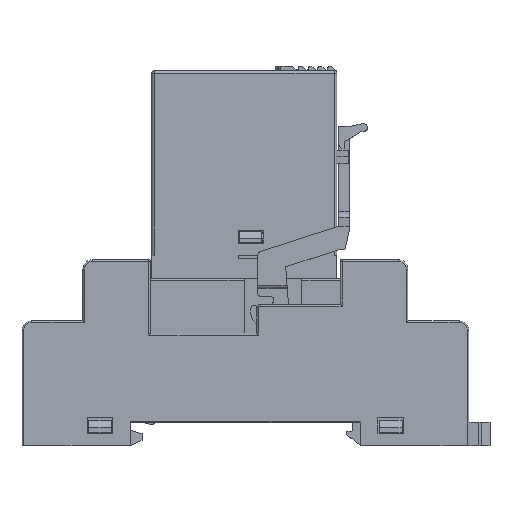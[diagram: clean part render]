
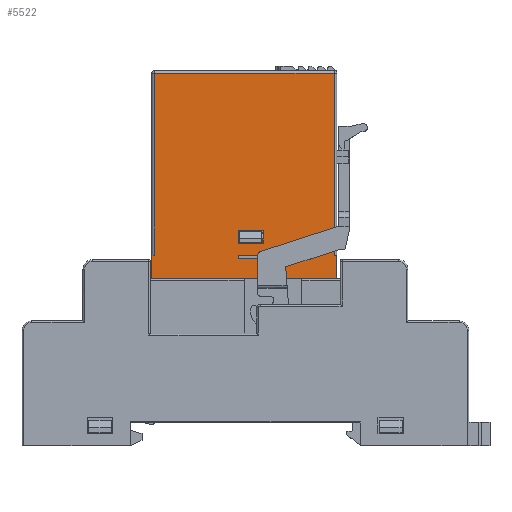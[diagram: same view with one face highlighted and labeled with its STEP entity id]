
A CAD part, top view. The second image highlights one B-rep face of the part: STEP entity #5522.
In plain terms, the highlighted planar face has unit normal (0, 0, 1).
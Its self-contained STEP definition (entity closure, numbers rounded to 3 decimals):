
#660 = VERTEX_POINT ( 'NONE', #59636 ) ;
#1149 = ORIENTED_EDGE ( 'NONE', *, *, #95142, .T. ) ;
#1178 = ORIENTED_EDGE ( 'NONE', *, *, #70466, .T. ) ;
#1721 = ORIENTED_EDGE ( 'NONE', *, *, #22325, .T. ) ;
#2064 = CARTESIAN_POINT ( 'NONE',  ( -13.6, 28.292, 6.3 ) ) ;
#2216 = VERTEX_POINT ( 'NONE', #18918 ) ;
#3144 = LINE ( 'NONE', #58376, #40420 ) ;
#3998 = VECTOR ( 'NONE', #49605, 1000. ) ;
#4948 = ORIENTED_EDGE ( 'NONE', *, *, #82903, .F. ) ;
#5128 = ORIENTED_EDGE ( 'NONE', *, *, #59732, .F. ) ;
#5522 = ADVANCED_FACE ( 'NONE', ( #71629, #32174, #88980 ), #88077, .F. ) ;
#5698 = ORIENTED_EDGE ( 'NONE', *, *, #84038, .T. ) ;
#5722 = ORIENTED_EDGE ( 'NONE', *, *, #82137, .T. ) ;
#7141 = ORIENTED_EDGE ( 'NONE', *, *, #20854, .T. ) ;
#7644 = VERTEX_POINT ( 'NONE', #42459 ) ;
#8259 = ORIENTED_EDGE ( 'NONE', *, *, #28903, .F. ) ;
#8658 = CARTESIAN_POINT ( 'NONE',  ( -0.575, 3.842, 6.3 ) ) ;
#8934 = LINE ( 'NONE', #41069, #70514 ) ;
#9820 = CARTESIAN_POINT ( 'NONE',  ( 14.8, -0.008, 6.3 ) ) ;
#10282 = CARTESIAN_POINT ( 'NONE',  ( -13.6, 28.292, 6.3 ) ) ;
#11057 = DIRECTION ( 'NONE',  ( 0., -1., 0. ) ) ;
#11660 = VERTEX_POINT ( 'NONE', #82272 ) ;
#12462 = LINE ( 'NONE', #51675, #49628 ) ;
#12819 = EDGE_CURVE ( 'NONE', #15055, #7644, #3144, .T. ) ;
#12913 = CARTESIAN_POINT ( 'NONE',  ( 14.1, -0.008, 6.3 ) ) ;
#13637 = DIRECTION ( 'NONE',  ( 0., -1., 0. ) ) ;
#13866 = VERTEX_POINT ( 'NONE', #89289 ) ;
#13966 = LINE ( 'NONE', #58598, #90509 ) ;
#14146 = DIRECTION ( 'NONE',  ( 0., 0., -1. ) ) ;
#14636 = DIRECTION ( 'NONE',  ( -1., 0., 0. ) ) ;
#15055 = VERTEX_POINT ( 'NONE', #46652 ) ;
#15725 = CARTESIAN_POINT ( 'NONE',  ( -0.55, -0.008, 6.3 ) ) ;
#16038 = DIRECTION ( 'NONE',  ( 0., 1., 0. ) ) ;
#16796 = VERTEX_POINT ( 'NONE', #74848 ) ;
#18153 = ORIENTED_EDGE ( 'NONE', *, *, #18557, .T. ) ;
#18460 = ORIENTED_EDGE ( 'NONE', *, *, #52860, .F. ) ;
#18557 = EDGE_CURVE ( 'NONE', #31711, #80776, #13966, .T. ) ;
#18918 = CARTESIAN_POINT ( 'NONE',  ( -0.575, 1.842, 6.3 ) ) ;
#19955 = LINE ( 'NONE', #93569, #79208 ) ;
#20854 = EDGE_CURVE ( 'NONE', #50770, #13866, #68976, .T. ) ;
#21106 = VECTOR ( 'NONE', #78696, 1000. ) ;
#21489 = VECTOR ( 'NONE', #11057, 1000. ) ;
#22325 = EDGE_CURVE ( 'NONE', #11660, #660, #80356, .T. ) ;
#22936 = ORIENTED_EDGE ( 'NONE', *, *, #29663, .T. ) ;
#23020 = ORIENTED_EDGE ( 'NONE', *, *, #38254, .T. ) ;
#24983 = LINE ( 'NONE', #10282, #81859 ) ;
#26030 = CARTESIAN_POINT ( 'NONE',  ( -0.5, 1.842, 6.3 ) ) ;
#27523 = LINE ( 'NONE', #88562, #84354 ) ;
#28074 = VECTOR ( 'NONE', #44036, 1000. ) ;
#28903 = EDGE_CURVE ( 'NONE', #69976, #2216, #64876, .T. ) ;
#29076 = DIRECTION ( 'NONE',  ( 0., 1., 0. ) ) ;
#29351 = CARTESIAN_POINT ( 'NONE',  ( 3.3, -0.508, 6.3 ) ) ;
#29663 = EDGE_CURVE ( 'NONE', #16796, #37513, #8934, .T. ) ;
#30792 = CARTESIAN_POINT ( 'NONE',  ( -0.575, 3.842, 6.3 ) ) ;
#31018 = LINE ( 'NONE', #65589, #50771 ) ;
#31711 = VERTEX_POINT ( 'NONE', #83251 ) ;
#32174 = FACE_BOUND ( 'NONE', #63996, .T. ) ;
#32362 = ORIENTED_EDGE ( 'NONE', *, *, #94884, .T. ) ;
#32989 = EDGE_LOOP ( 'NONE', ( #4948, #8259, #5128, #67355 ) ) ;
#33579 = EDGE_CURVE ( 'NONE', #37853, #50770, #47825, .T. ) ;
#34338 = LINE ( 'NONE', #82811, #73735 ) ;
#36141 = CARTESIAN_POINT ( 'NONE',  ( 14.8, -3.708, 6.3 ) ) ;
#36249 = CARTESIAN_POINT ( 'NONE',  ( -14., 9.792, 6.3 ) ) ;
#37513 = VERTEX_POINT ( 'NONE', #36141 ) ;
#37853 = VERTEX_POINT ( 'NONE', #54829 ) ;
#38254 = EDGE_CURVE ( 'NONE', #80776, #60362, #24983, .T. ) ;
#40420 = VECTOR ( 'NONE', #43463, 1000. ) ;
#41069 = CARTESIAN_POINT ( 'NONE',  ( -14., -3.708, 6.3 ) ) ;
#41738 = DIRECTION ( 'NONE',  ( 1., 0., 0. ) ) ;
#42459 = CARTESIAN_POINT ( 'NONE',  ( 3.325, 3.842, 6.3 ) ) ;
#43463 = DIRECTION ( 'NONE',  ( 0., 1., 0. ) ) ;
#44036 = DIRECTION ( 'NONE',  ( 0., -1., 0. ) ) ;
#44305 = DIRECTION ( 'NONE',  ( -1., 0., 0. ) ) ;
#45714 = DIRECTION ( 'NONE',  ( 0., -1., 0. ) ) ;
#46086 = CARTESIAN_POINT ( 'NONE',  ( 14.4, 28.292, 6.3 ) ) ;
#46652 = CARTESIAN_POINT ( 'NONE',  ( 3.325, 1.842, 6.3 ) ) ;
#47825 = LINE ( 'NONE', #58624, #28074 ) ;
#49271 = VECTOR ( 'NONE', #44305, 1000. ) ;
#49605 = DIRECTION ( 'NONE',  ( -1., 0., 0. ) ) ;
#49628 = VECTOR ( 'NONE', #59161, 1000. ) ;
#50370 = CARTESIAN_POINT ( 'NONE',  ( 3.3, -0.508, 6.3 ) ) ;
#50770 = VERTEX_POINT ( 'NONE', #50370 ) ;
#50771 = VECTOR ( 'NONE', #13637, 1000. ) ;
#51675 = CARTESIAN_POINT ( 'NONE',  ( -14., -3.708, 6.3 ) ) ;
#52860 = EDGE_CURVE ( 'NONE', #70451, #13866, #31018, .T. ) ;
#54829 = CARTESIAN_POINT ( 'NONE',  ( 3.3, -0.008, 6.3 ) ) ;
#55484 = CARTESIAN_POINT ( 'NONE',  ( -13.6, 23.492, 6.3 ) ) ;
#58376 = CARTESIAN_POINT ( 'NONE',  ( 3.325, 3.842, 6.3 ) ) ;
#58598 = CARTESIAN_POINT ( 'NONE',  ( 14.4, 23.492, 6.3 ) ) ;
#58624 = CARTESIAN_POINT ( 'NONE',  ( 3.3, 1.892, 6.3 ) ) ;
#59161 = DIRECTION ( 'NONE',  ( 0., -1., 0. ) ) ;
#59636 = CARTESIAN_POINT ( 'NONE',  ( -14., -0.008, 6.3 ) ) ;
#59732 = EDGE_CURVE ( 'NONE', #7644, #69976, #27523, .T. ) ;
#60362 = VERTEX_POINT ( 'NONE', #2064 ) ;
#60997 = LINE ( 'NONE', #55484, #21489 ) ;
#61998 = LINE ( 'NONE', #26030, #64332 ) ;
#62222 = DIRECTION ( 'NONE',  ( -1., 0., 0. ) ) ;
#62529 = VECTOR ( 'NONE', #45714, 1000. ) ;
#63996 = EDGE_LOOP ( 'NONE', ( #18460, #5698, #84532, #7141 ) ) ;
#64332 = VECTOR ( 'NONE', #85361, 1000. ) ;
#64876 = LINE ( 'NONE', #8658, #62529 ) ;
#65589 = CARTESIAN_POINT ( 'NONE',  ( -0.55, 1.892, 6.3 ) ) ;
#66103 = DIRECTION ( 'NONE',  ( 0., -1., 0. ) ) ;
#67355 = ORIENTED_EDGE ( 'NONE', *, *, #12819, .F. ) ;
#68976 = LINE ( 'NONE', #29351, #49271 ) ;
#69976 = VERTEX_POINT ( 'NONE', #30792 ) ;
#70451 = VERTEX_POINT ( 'NONE', #15725 ) ;
#70466 = EDGE_CURVE ( 'NONE', #37513, #87047, #34338, .T. ) ;
#70514 = VECTOR ( 'NONE', #85430, 1000. ) ;
#71240 = CARTESIAN_POINT ( 'NONE',  ( 14.1, -0.008, 6.3 ) ) ;
#71629 = FACE_OUTER_BOUND ( 'NONE', #76121, .T. ) ;
#73735 = VECTOR ( 'NONE', #16038, 1000. ) ;
#74848 = CARTESIAN_POINT ( 'NONE',  ( -14., -3.708, 6.3 ) ) ;
#76121 = EDGE_LOOP ( 'NONE', ( #1149, #1721, #32362, #22936, #1178, #5722, #18153, #23020 ) ) ;
#78696 = DIRECTION ( 'NONE',  ( -1., 0., 0. ) ) ;
#79208 = VECTOR ( 'NONE', #41738, 1000. ) ;
#80356 = LINE ( 'NONE', #71240, #21106 ) ;
#80776 = VERTEX_POINT ( 'NONE', #46086 ) ;
#81859 = VECTOR ( 'NONE', #62222, 1000. ) ;
#82137 = EDGE_CURVE ( 'NONE', #87047, #31711, #85290, .T. ) ;
#82272 = CARTESIAN_POINT ( 'NONE',  ( -13.6, -0.008, 6.3 ) ) ;
#82811 = CARTESIAN_POINT ( 'NONE',  ( 14.8, -3.708, 6.3 ) ) ;
#82903 = EDGE_CURVE ( 'NONE', #2216, #15055, #61998, .T. ) ;
#83251 = CARTESIAN_POINT ( 'NONE',  ( 14.4, -0.008, 6.3 ) ) ;
#84038 = EDGE_CURVE ( 'NONE', #70451, #37853, #19955, .T. ) ;
#84354 = VECTOR ( 'NONE', #14636, 1000. ) ;
#84532 = ORIENTED_EDGE ( 'NONE', *, *, #33579, .T. ) ;
#85290 = LINE ( 'NONE', #12913, #3998 ) ;
#85361 = DIRECTION ( 'NONE',  ( 1., 0., 0. ) ) ;
#85430 = DIRECTION ( 'NONE',  ( 1., 0., 0. ) ) ;
#87047 = VERTEX_POINT ( 'NONE', #9820 ) ;
#88077 = PLANE ( 'NONE',  #90814 ) ;
#88562 = CARTESIAN_POINT ( 'NONE',  ( -0.5, 3.842, 6.3 ) ) ;
#88980 = FACE_BOUND ( 'NONE', #32989, .T. ) ;
#89289 = CARTESIAN_POINT ( 'NONE',  ( -0.55, -0.508, 6.3 ) ) ;
#90509 = VECTOR ( 'NONE', #29076, 1000. ) ;
#90814 = AXIS2_PLACEMENT_3D ( 'NONE', #36249, #14146, #66103 ) ;
#93569 = CARTESIAN_POINT ( 'NONE',  ( -14., -0.008, 6.3 ) ) ;
#94884 = EDGE_CURVE ( 'NONE', #660, #16796, #12462, .T. ) ;
#95142 = EDGE_CURVE ( 'NONE', #60362, #11660, #60997, .T. ) ;
